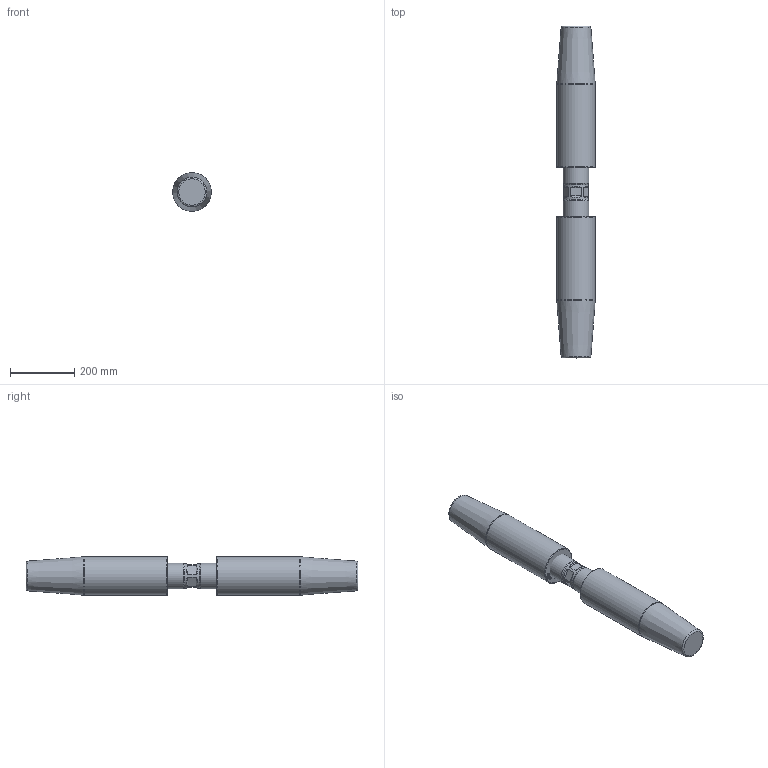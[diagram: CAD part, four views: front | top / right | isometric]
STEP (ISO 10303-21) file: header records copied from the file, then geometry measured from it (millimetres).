
FILE_DESCRIPTION(/* description */ (''),/* implementation_level */ '2;1');
FILE_NAME(/* name */ 'D:\Clienti\Redaelli (inventor)\CYA\STEP\Arrangement\CYA040 52 061 2.stp',/* time_stamp */ '2021-05-09T10:10:53+02:00',/* author */ ('fabri'),/* organization */ (''),/* preprocessor_version */ 'ST-DEVELOPER v16.13',/* originating_system */ 'Autodesk Inventor 2018',/* authorisation */ '');
FILE_SCHEMA (('AUTOMOTIVE_DESIGN { 1 0 10303 214 3 1 1 }'));
Length unit declared in the file: millimetre
Products named in the file (4): CYA012-54-062-0; TBF012-12-012-1; TBF012-13-012-0; TBF012-13-012-0_1
Assembly tree (3 placements, depth 2):
  CYA012-54-062-0
    TBF012-12-012-1
    TBF012-13-012-0
    TBF012-13-012-0_1
Bounding box: 119.92 x 1033 x 119.92 mm (x, y, z)
Volume: 11466666.8 mm3; surface area: 481381.1 mm2
Topology: 3 solids, 3 shells, 467 faces, 1237 edges, 825 vertices
Faces by surface type: bspline 228, plane 210, cylinder 18, cone 7, torus 4
Full cylindrical faces by diameter (mm): 4.917 x1, 77 x1, 80 x2, 120 x2
Entity records: 15990 total; most frequent: CARTESIAN_POINT 5919, ORIENTED_EDGE 2438, DIRECTION 1259, EDGE_CURVE 1219, VERTEX_POINT 824, LINE 715, VECTOR 715, EDGE_LOOP 533
